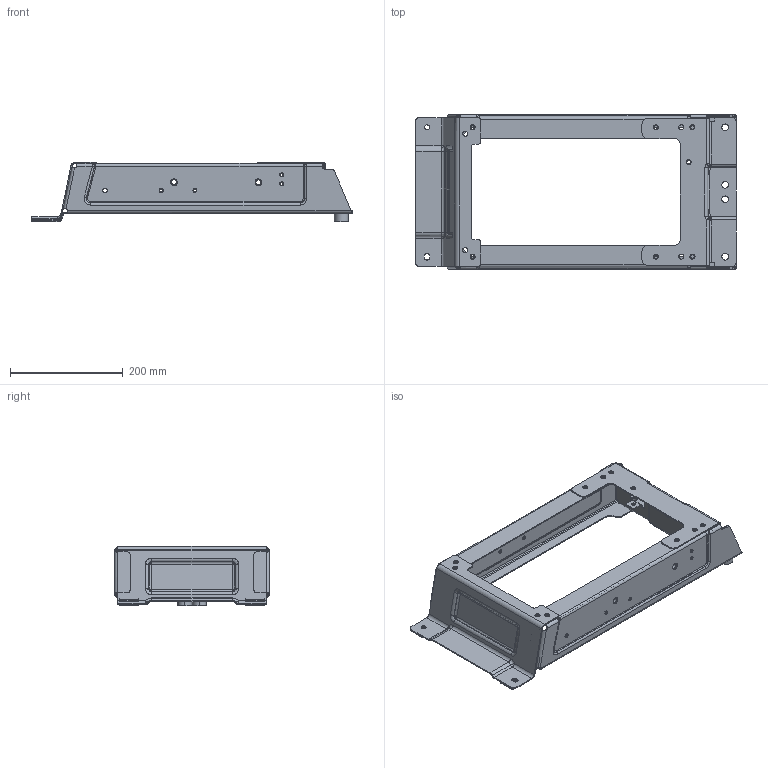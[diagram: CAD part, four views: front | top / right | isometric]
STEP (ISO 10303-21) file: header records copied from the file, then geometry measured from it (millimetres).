
FILE_DESCRIPTION(('CATIA V5 STEP Exchange'),'2;1');
FILE_NAME('F:\福田A6\1-数据\6-冻结数据\第九批\设变\静电导线设变\SHT0016014-宽车主驾驶底部支架焊接总成\SHT0016014-20241028.stp','2024-10-28T13:00:23+00:00',('none'),('none'),'CATIA Version 5 Release 20 GA (IN-10)','CATIA V5 STEP AP203','none');
FILE_SCHEMA(('CONFIG_CONTROL_DESIGN'));
Products named in the file (1): SHT0016014
Bounding box: 569.84 x 275 x 105.5 mm (x, y, z)
Volume: 535261.6 mm3; surface area: 535510.6 mm2
Topology: 21 solids, 21 shells, 1285 faces, 3500 edges, 2229 vertices
Faces by surface type: cylinder 487, plane 351, bspline 178, cone 156, torus 57, sphere 48, extrusion 6, revolution 2
Entity records: 45269 total; most frequent: CARTESIAN_POINT 16213, ORIENTED_EDGE 6912, DIRECTION 4286, EDGE_CURVE 3456, VERTEX_POINT 2229, AXIS2_PLACEMENT_3D 2089, EDGE_LOOP 1435, ADVANCED_FACE 1285
